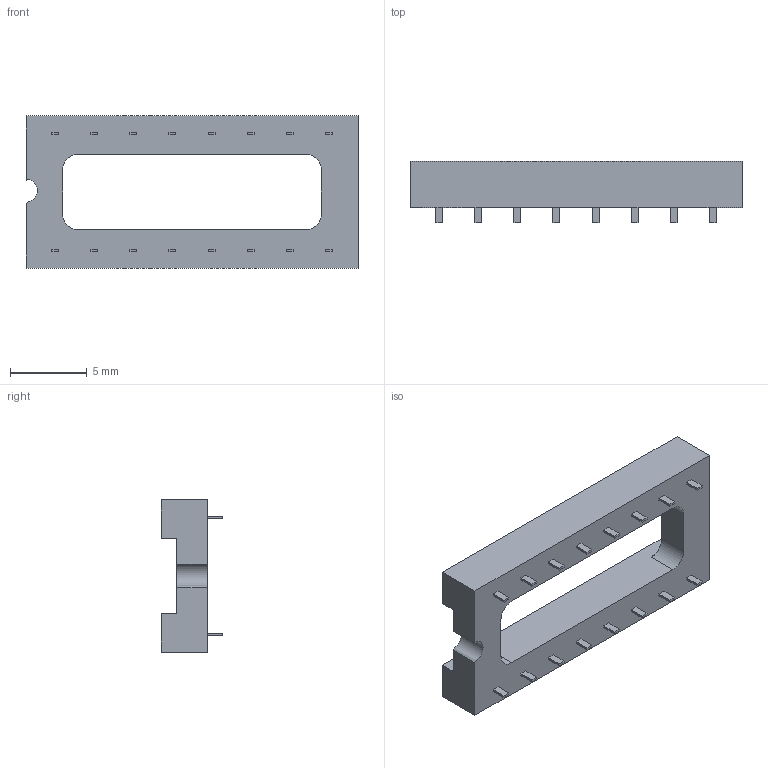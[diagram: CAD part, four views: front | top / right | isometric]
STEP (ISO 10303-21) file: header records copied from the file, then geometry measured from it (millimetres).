
FILE_DESCRIPTION (( 'STEP AP214' ), '1' );
FILE_NAME ( 'DIPS762W45P254L2159H300Q16P.STEP', '2014-04-11T12:31:22', ( '' ), ( '' ), 'FPX Expert 2013', 'PCB Libraries', '' );
FILE_SCHEMA (( 'AUTOMOTIVE_DESIGN' ));
Length unit declared in the file: millimetre
Products named in the file (1): DIPS762W45P254L2159H300Q16P
Bounding box: 21.59 x 4 x 9.9 mm (x, y, z)
Volume: 371.7 mm3; surface area: 591.7 mm2
Topology: 17 solids, 17 shells, 115 faces, 246 edges, 164 vertices
Faces by surface type: plane 110, cylinder 5
Entity records: 3559 total; most frequent: CARTESIAN_POINT 526, ORIENTED_EDGE 492, DIRECTION 488, EDGE_CURVE 246, VECTOR 236, LINE 236, VERTEX_POINT 164, STYLED_ITEM 133
